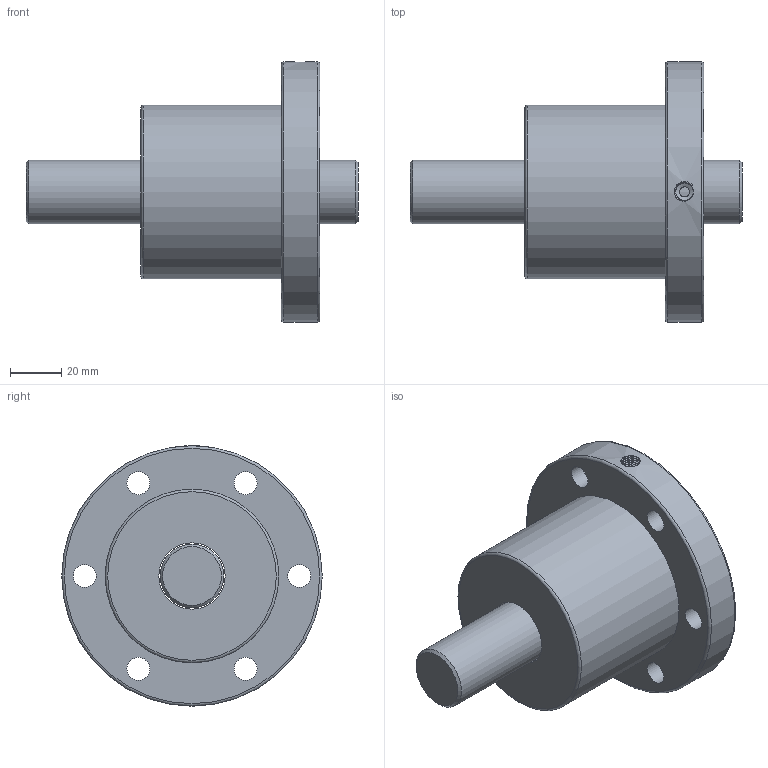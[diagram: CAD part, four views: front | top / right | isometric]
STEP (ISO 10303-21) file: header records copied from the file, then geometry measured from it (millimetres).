
FILE_DESCRIPTION(/* description */ ('Unknown','CAx-IF Rec.Pracs.---Representation and Presentation of Product Manufacturing Information (PMI)---4.0---2014-10-13','CAx-IF Rec.Pracs.---3D Tessellated Geometry---0.4---2014-09-14','2;1'),/* implementation_level */ '2;1');
FILE_NAME(/* name */ 'SFV02510-2.7',/* time_stamp */ '2020-12-08T10:36:57+08:00',/* author */ ('Unknown'),/* organization */ ('Unknown'),/* preprocessor_version */ 'ST-DEVELOPER v16.7',/* originating_system */ 'Solid Edge',/* authorisation */ 'Unknown');
FILE_SCHEMA (('AP242_MANAGED_MODEL_BASED_3D_ENGINEERING_MIM_LF { 1 0 10303 442 1 1 4 }'));
Length unit declared in the file: millimetre
Products named in the file (1): SFV02510-2.7
Bounding box: 130 x 102 x 102 mm (x, y, z)
Volume: 337645.5 mm3; surface area: 51500 mm2
Topology: 2 solids, 2 shells, 40 faces, 80 edges, 51 vertices
Faces by surface type: cylinder 20, plane 12, torus 3, cone 3, bspline 2
Full cylindrical faces by diameter (mm): 4 x1, 6.917 x1, 9 x6, 14 x6, 25 x1, 26 x1, 68 x1, 102 x1
Entity records: 3205 total; most frequent: CARTESIAN_POINT 2369, DIRECTION 168, ORIENTED_EDGE 106, EDGE_LOOP 87, FACE_BOUND 87, AXIS2_PLACEMENT_3D 85, EDGE_CURVE 53, VERTEX_POINT 48
